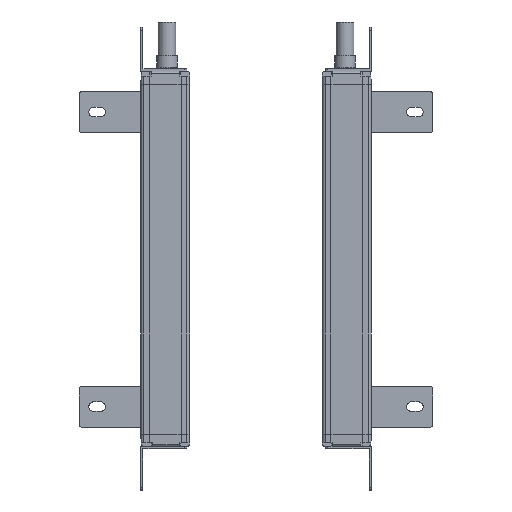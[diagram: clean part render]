
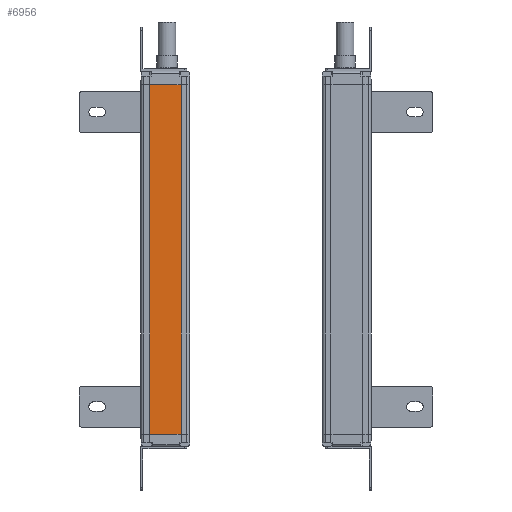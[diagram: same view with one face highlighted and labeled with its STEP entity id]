
A CAD part, left-side view. The second image highlights one B-rep face of the part: STEP entity #6956.
In plain terms, the highlighted planar face has unit normal (-1, 0, 0).
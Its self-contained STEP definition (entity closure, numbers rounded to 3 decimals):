
#953=FACE_OUTER_BOUND('',#9034,.T.);
#2188=LINE('',#33710,#4326);
#2290=LINE('',#34050,#4428);
#2291=LINE('',#34052,#4429);
#2292=LINE('',#34054,#4430);
#4326=VECTOR('',#26897,1.);
#4428=VECTOR('',#27185,1.);
#4429=VECTOR('',#27188,1.);
#4430=VECTOR('',#27189,1.);
#6178=PLANE('',#23723);
#6956=ADVANCED_FACE('',(#953),#6178,.T.);
#9034=EDGE_LOOP('',(#11681,#11682,#11683,#11684));
#11681=ORIENTED_EDGE('',*,*,#19828,.F.);
#11682=ORIENTED_EDGE('',*,*,#19829,.T.);
#11683=ORIENTED_EDGE('',*,*,#19830,.T.);
#11684=ORIENTED_EDGE('',*,*,#19658,.F.);
#17203=VERTEX_POINT('',#33709);
#17204=VERTEX_POINT('',#33711);
#17348=VERTEX_POINT('',#34049);
#17349=VERTEX_POINT('',#34053);
#19658=EDGE_CURVE('',#17203,#17204,#2188,.T.);
#19828=EDGE_CURVE('',#17348,#17203,#2290,.T.);
#19829=EDGE_CURVE('',#17348,#17349,#2291,.T.);
#19830=EDGE_CURVE('',#17349,#17204,#2292,.T.);
#23723=AXIS2_PLACEMENT_3D('',#34055,#27190,#27191);
#26897=DIRECTION('',(0.,-1.,0.));
#27185=DIRECTION('',(0.,0.,1.));
#27188=DIRECTION('',(0.,-1.,0.));
#27189=DIRECTION('',(0.,0.,1.));
#27190=DIRECTION('',(-1.,0.,0.));
#27191=DIRECTION('',(0.,-1.,0.));
#33709=CARTESIAN_POINT('',(233.846,104.141,31.645));
#33710=CARTESIAN_POINT('',(233.846,81.141,31.645));
#33711=CARTESIAN_POINT('',(233.846,81.141,31.645));
#34049=CARTESIAN_POINT('',(233.846,104.141,-223.355));
#34050=CARTESIAN_POINT('',(233.846,104.141,-155.355));
#34052=CARTESIAN_POINT('',(233.846,81.141,-223.355));
#34053=CARTESIAN_POINT('',(233.846,81.141,-223.355));
#34054=CARTESIAN_POINT('',(233.846,81.141,-155.355));
#34055=CARTESIAN_POINT('',(233.846,81.141,-50.355));
